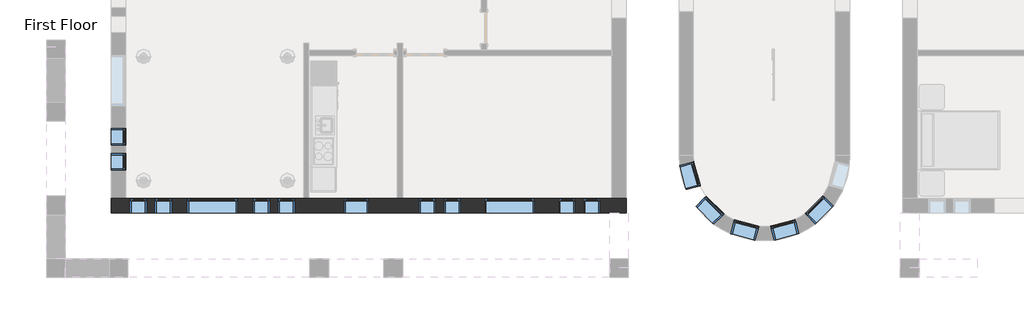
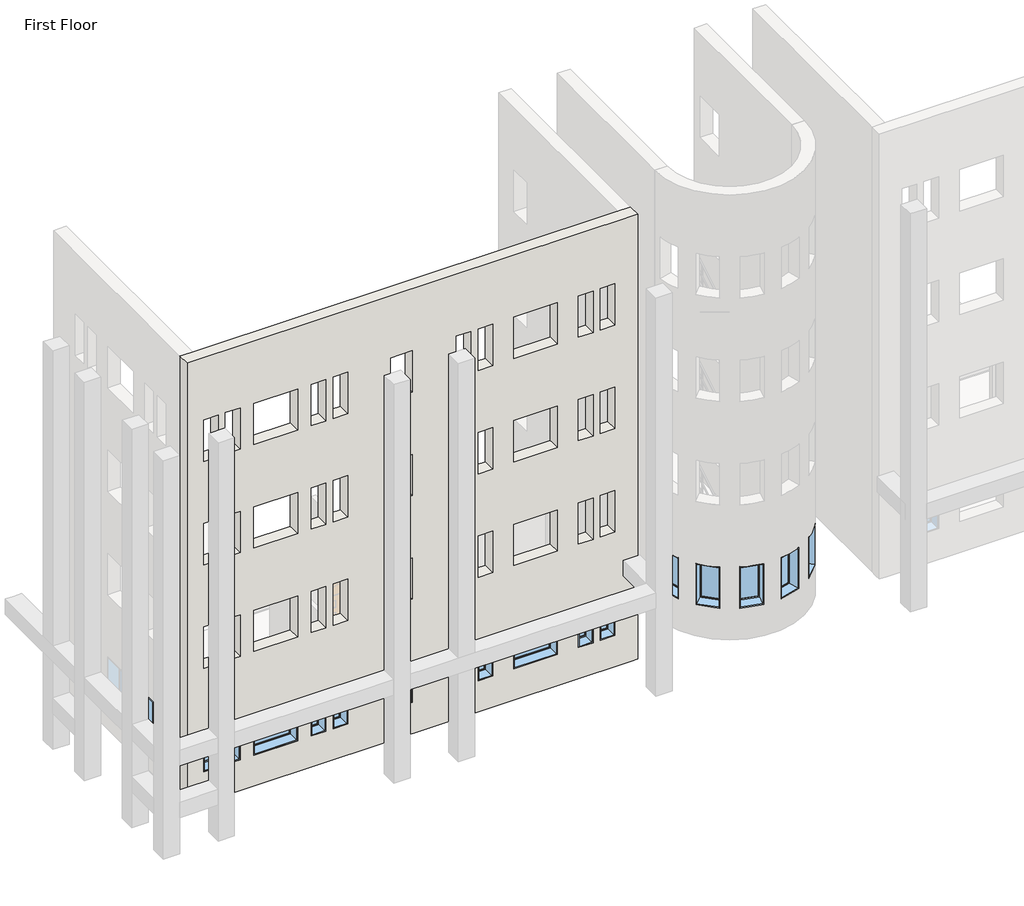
# One storey, part 1 of 24: 18 windows, 1 wall.
"""IFC4 building model written with IfcOpenShell, lengths in millimetres."""

from ifc_helpers import new_model, si_unit, origin, place, context, project, spatial, faceted_brep, transform, mapped, element, save
from components import window_da97879f, window_d61ef850, window_60baf983, window_ed80354a, window_6eb97611

model = new_model("IFC4")

# Units and contexts
model_context = context("Model", 3, world=origin())
ifc_project = project(units=[si_unit("LENGTHUNIT", "METRE", prefix="MILLI")], contexts=[model_context])

# Site, building, storey
site = spatial("IfcSite", under=ifc_project)
building = spatial("IfcBuilding", under=site)
storey = spatial("IfcBuildingStorey", under=building, Name="First Floor", Elevation=0.0)

# Wall
placement = place(None, origin())
element("IfcWall", 1, ObjectType="Exterior - Brick on Mtl. Stud", at=placement, inside=storey, context=model_context, shape_type="Brep", body=[
    faceted_brep([(-18300.6714563, -33878.3558133, 0.0), (-18487.9964563, -33878.3558133, 0.0), (-18653.0964563, -33878.3558133, 0.0), (-23747.3839563, -33878.3558133, 0.0), (-23874.3839563, -33878.3558133, 0.0), (-26033.3839563, -33878.3558133, 0.0), (-26160.3839563, -33878.3558133, 0.0), (-30492.6714563, -33878.3558133, 0.0), (-30657.7714563, -33878.3558133, 0.0), (-30845.0964563, -33878.3558133, 0.0), (-30845.0964563, -33878.3558133, 13106.4), (-30492.6714563, -33878.3558133, 13106.4), (-18653.0964563, -33878.3558133, 13106.4), (-18300.6714563, -33878.3558133, 13106.4), (-24572.8839563, -33878.3558133, 2133.6), (-25182.4839563, -33878.3558133, 2133.6), (-25182.4839563, -33878.3558133, 914.4), (-24572.8839563, -33878.3558133, 914.4), (-20534.2839563, -33878.3558133, 2133.6), (-21753.4839563, -33878.3558133, 2133.6), (-21753.4839563, -33878.3558133, 914.4), (-20534.2839563, -33878.3558133, 914.4), (-27773.2839563, -33878.3558133, 2133.6), (-28992.4839563, -33878.3558133, 2133.6), (-28992.4839563, -33878.3558133, 914.4), (-27773.2839563, -33878.3558133, 914.4), (-18934.0839563, -33878.3558133, 2133.6), (-19340.4839563, -33878.3558133, 2133.6), (-19340.4839563, -33878.3558133, 914.4), (-18934.0839563, -33878.3558133, 914.4), (-19543.6839563, -33878.3558133, 2133.6), (-19950.0839563, -33878.3558133, 2133.6), (-19950.0839563, -33878.3558133, 914.4), (-19543.6839563, -33878.3558133, 914.4), (-23353.6839563, -33878.3558133, 2133.6), (-23353.6839563, -33878.3558133, 914.4), (-22947.2839563, -33878.3558133, 914.4), (-22947.2839563, -33878.3558133, 2133.6), (-22744.0839563, -33878.3558133, 2133.6), (-22744.0839563, -33878.3558133, 914.4), (-22337.6839563, -33878.3558133, 914.4), (-22337.6839563, -33878.3558133, 2133.6), (-26376.2839563, -33878.3558133, 2133.6), (-26782.6839563, -33878.3558133, 2133.6), (-26782.6839563, -33878.3558133, 914.4), (-26376.2839563, -33878.3558133, 914.4), (-26985.8839563, -33878.3558133, 2133.6), (-27392.2839563, -33878.3558133, 2133.6), (-27392.2839563, -33878.3558133, 914.4), (-26985.8839563, -33878.3558133, 914.4), (-30389.4839563, -33878.3558133, 2133.6), (-30389.4839563, -33878.3558133, 914.4), (-29983.0839563, -33878.3558133, 914.4), (-29983.0839563, -33878.3558133, 2133.6), (-29779.8839563, -33878.3558133, 2133.6), (-29779.8839563, -33878.3558133, 914.4), (-29373.4839563, -33878.3558133, 914.4), (-29373.4839563, -33878.3558133, 2133.6), (-24572.8839563, -33878.3558133, 11277.6), (-25182.4839563, -33878.3558133, 11277.6), (-25182.4839563, -33878.3558133, 10058.4), (-24572.8839563, -33878.3558133, 10058.4), (-20534.2839563, -33878.3558133, 11277.6), (-21753.4839563, -33878.3558133, 11277.6), (-21753.4839563, -33878.3558133, 10058.4), (-20534.2839563, -33878.3558133, 10058.4), (-27773.2839563, -33878.3558133, 11277.6), (-28992.4839563, -33878.3558133, 11277.6), (-28992.4839563, -33878.3558133, 10058.4), (-27773.2839563, -33878.3558133, 10058.4), (-18934.0839563, -33878.3558133, 11277.6), (-19340.4839563, -33878.3558133, 11277.6), (-19340.4839563, -33878.3558133, 10058.4), (-18934.0839563, -33878.3558133, 10058.4), (-19543.6839563, -33878.3558133, 11277.6), (-19950.0839563, -33878.3558133, 11277.6), (-19950.0839563, -33878.3558133, 10058.4), (-19543.6839563, -33878.3558133, 10058.4), (-23353.6839563, -33878.3558133, 11277.6), (-23353.6839563, -33878.3558133, 10058.4), (-22947.2839563, -33878.3558133, 10058.4), (-22947.2839563, -33878.3558133, 11277.6), (-22744.0839563, -33878.3558133, 11277.6), (-22744.0839563, -33878.3558133, 10058.4), (-22337.6839563, -33878.3558133, 10058.4), (-22337.6839563, -33878.3558133, 11277.6), (-26376.2839563, -33878.3558133, 11277.6), (-26782.6839563, -33878.3558133, 11277.6), (-26782.6839563, -33878.3558133, 10058.4), (-26376.2839563, -33878.3558133, 10058.4), (-26985.8839563, -33878.3558133, 11277.6), (-27392.2839563, -33878.3558133, 11277.6), (-27392.2839563, -33878.3558133, 10058.4), (-26985.8839563, -33878.3558133, 10058.4), (-30389.4839563, -33878.3558133, 11277.6), (-30389.4839563, -33878.3558133, 10058.4), (-29983.0839563, -33878.3558133, 10058.4), (-29983.0839563, -33878.3558133, 11277.6), (-29779.8839563, -33878.3558133, 11277.6), (-29779.8839563, -33878.3558133, 10058.4), (-29373.4839563, -33878.3558133, 10058.4), (-29373.4839563, -33878.3558133, 11277.6), (-24572.8839563, -33878.3558133, 5181.6), (-25182.4839563, -33878.3558133, 5181.6), (-25182.4839563, -33878.3558133, 3962.4), (-24572.8839563, -33878.3558133, 3962.4), (-20534.2839563, -33878.3558133, 5181.6), (-21753.4839563, -33878.3558133, 5181.6), (-21753.4839563, -33878.3558133, 3962.4), (-20534.2839563, -33878.3558133, 3962.4), (-27773.2839563, -33878.3558133, 5181.6), (-28992.4839563, -33878.3558133, 5181.6), (-28992.4839563, -33878.3558133, 3962.4), (-27773.2839563, -33878.3558133, 3962.4), (-18934.0839563, -33878.3558133, 5181.6), (-19340.4839563, -33878.3558133, 5181.6), (-19340.4839563, -33878.3558133, 3962.4), (-18934.0839563, -33878.3558133, 3962.4), (-19543.6839563, -33878.3558133, 5181.6), (-19950.0839563, -33878.3558133, 5181.6), (-19950.0839563, -33878.3558133, 3962.4), (-19543.6839563, -33878.3558133, 3962.4), (-23353.6839563, -33878.3558133, 5181.6), (-23353.6839563, -33878.3558133, 3962.4), (-22947.2839563, -33878.3558133, 3962.4), (-22947.2839563, -33878.3558133, 5181.6), (-22744.0839563, -33878.3558133, 5181.6), (-22744.0839563, -33878.3558133, 3962.4), (-22337.6839563, -33878.3558133, 3962.4), (-22337.6839563, -33878.3558133, 5181.6), (-26376.2839563, -33878.3558133, 5181.6), (-26782.6839563, -33878.3558133, 5181.6), (-26782.6839563, -33878.3558133, 3962.4), (-26376.2839563, -33878.3558133, 3962.4), (-26985.8839563, -33878.3558133, 5181.6), (-27392.2839563, -33878.3558133, 5181.6), (-27392.2839563, -33878.3558133, 3962.4), (-26985.8839563, -33878.3558133, 3962.4), (-30389.4839563, -33878.3558133, 5181.6), (-30389.4839563, -33878.3558133, 3962.4), (-29983.0839563, -33878.3558133, 3962.4), (-29983.0839563, -33878.3558133, 5181.6), (-29779.8839563, -33878.3558133, 5181.6), (-29779.8839563, -33878.3558133, 3962.4), (-29373.4839563, -33878.3558133, 3962.4), (-29373.4839563, -33878.3558133, 5181.6), (-24572.8839563, -33878.3558133, 8229.6), (-25182.4839563, -33878.3558133, 8229.6), (-25182.4839563, -33878.3558133, 7010.4), (-24572.8839563, -33878.3558133, 7010.4), (-20534.2839563, -33878.3558133, 8229.6), (-21753.4839563, -33878.3558133, 8229.6), (-21753.4839563, -33878.3558133, 7010.4), (-20534.2839563, -33878.3558133, 7010.4), (-27773.2839563, -33878.3558133, 8229.6), (-28992.4839563, -33878.3558133, 8229.6), (-28992.4839563, -33878.3558133, 7010.4), (-27773.2839563, -33878.3558133, 7010.4), (-18934.0839563, -33878.3558133, 8229.6), (-19340.4839563, -33878.3558133, 8229.6), (-19340.4839563, -33878.3558133, 7010.4), (-18934.0839563, -33878.3558133, 7010.4), (-19543.6839563, -33878.3558133, 8229.6), (-19950.0839563, -33878.3558133, 8229.6), (-19950.0839563, -33878.3558133, 7010.4), (-19543.6839563, -33878.3558133, 7010.4), (-23353.6839563, -33878.3558133, 8229.6), (-23353.6839563, -33878.3558133, 7010.4), (-22947.2839563, -33878.3558133, 7010.4), (-22947.2839563, -33878.3558133, 8229.6), (-22744.0839563, -33878.3558133, 8229.6), (-22744.0839563, -33878.3558133, 7010.4), (-22337.6839563, -33878.3558133, 7010.4), (-22337.6839563, -33878.3558133, 8229.6), (-26376.2839563, -33878.3558133, 8229.6), (-26782.6839563, -33878.3558133, 8229.6), (-26782.6839563, -33878.3558133, 7010.4), (-26376.2839563, -33878.3558133, 7010.4), (-26985.8839563, -33878.3558133, 8229.6), (-27392.2839563, -33878.3558133, 8229.6), (-27392.2839563, -33878.3558133, 7010.4), (-26985.8839563, -33878.3558133, 7010.4), (-30389.4839563, -33878.3558133, 8229.6), (-30389.4839563, -33878.3558133, 7010.4), (-29983.0839563, -33878.3558133, 7010.4), (-29983.0839563, -33878.3558133, 8229.6), (-29779.8839563, -33878.3558133, 8229.6), (-29779.8839563, -33878.3558133, 7010.4), (-29373.4839563, -33878.3558133, 7010.4), (-29373.4839563, -33878.3558133, 8229.6), (-18300.6714563, -34230.7808133, 0.0), (-18300.6714563, -34230.7808133, 13106.4), (-30845.0964563, -34230.7808133, 13106.4), (-30845.0964563, -34230.7808133, 0.0), (-30657.7714563, -34230.7808133, 0.0), (-18487.9964563, -34230.7808133, 0.0), (-24572.8839563, -34230.7808133, 2133.6), (-24572.8839563, -34230.7808133, 914.4), (-25182.4839563, -34230.7808133, 914.4), (-25182.4839563, -34230.7808133, 2133.6), (-20534.2839563, -34230.7808133, 2133.6), (-20534.2839563, -34230.7808133, 914.4), (-21753.4839563, -34230.7808133, 914.4), (-21753.4839563, -34230.7808133, 2133.6), (-27773.2839563, -34230.7808133, 2133.6), (-27773.2839563, -34230.7808133, 914.4), (-28992.4839563, -34230.7808133, 914.4), (-28992.4839563, -34230.7808133, 2133.6), (-18934.0839563, -34230.7808133, 2133.6), (-18934.0839563, -34230.7808133, 914.4), (-19340.4839563, -34230.7808133, 914.4), (-19340.4839563, -34230.7808133, 2133.6), (-19543.6839563, -34230.7808133, 2133.6), (-19543.6839563, -34230.7808133, 914.4), (-19950.0839563, -34230.7808133, 914.4), (-19950.0839563, -34230.7808133, 2133.6), (-23353.6839563, -34230.7808133, 2133.6), (-22947.2839563, -34230.7808133, 2133.6), (-22947.2839563, -34230.7808133, 914.4), (-23353.6839563, -34230.7808133, 914.4), (-22744.0839563, -34230.7808133, 2133.6), (-22337.6839563, -34230.7808133, 2133.6), (-22337.6839563, -34230.7808133, 914.4), (-22744.0839563, -34230.7808133, 914.4), (-26376.2839563, -34230.7808133, 2133.6), (-26376.2839563, -34230.7808133, 914.4), (-26782.6839563, -34230.7808133, 914.4), (-26782.6839563, -34230.7808133, 2133.6), (-26985.8839563, -34230.7808133, 2133.6), (-26985.8839563, -34230.7808133, 914.4), (-27392.2839563, -34230.7808133, 914.4), (-27392.2839563, -34230.7808133, 2133.6), (-30389.4839563, -34230.7808133, 2133.6), (-29983.0839563, -34230.7808133, 2133.6), (-29983.0839563, -34230.7808133, 914.4), (-30389.4839563, -34230.7808133, 914.4), (-29779.8839563, -34230.7808133, 2133.6), (-29373.4839563, -34230.7808133, 2133.6), (-29373.4839563, -34230.7808133, 914.4), (-29779.8839563, -34230.7808133, 914.4), (-24572.8839563, -34230.7808133, 11277.6), (-24572.8839563, -34230.7808133, 10058.4), (-25182.4839563, -34230.7808133, 10058.4), (-25182.4839563, -34230.7808133, 11277.6), (-20534.2839563, -34230.7808133, 11277.6), (-20534.2839563, -34230.7808133, 10058.4), (-21753.4839563, -34230.7808133, 10058.4), (-21753.4839563, -34230.7808133, 11277.6), (-27773.2839563, -34230.7808133, 11277.6), (-27773.2839563, -34230.7808133, 10058.4), (-28992.4839563, -34230.7808133, 10058.4), (-28992.4839563, -34230.7808133, 11277.6), (-18934.0839563, -34230.7808133, 11277.6), (-18934.0839563, -34230.7808133, 10058.4), (-19340.4839563, -34230.7808133, 10058.4), (-19340.4839563, -34230.7808133, 11277.6), (-19543.6839563, -34230.7808133, 11277.6), (-19543.6839563, -34230.7808133, 10058.4), (-19950.0839563, -34230.7808133, 10058.4), (-19950.0839563, -34230.7808133, 11277.6), (-23353.6839563, -34230.7808133, 11277.6), (-22947.2839563, -34230.7808133, 11277.6), (-22947.2839563, -34230.7808133, 10058.4), (-23353.6839563, -34230.7808133, 10058.4), (-22744.0839563, -34230.7808133, 11277.6), (-22337.6839563, -34230.7808133, 11277.6), (-22337.6839563, -34230.7808133, 10058.4), (-22744.0839563, -34230.7808133, 10058.4), (-26376.2839563, -34230.7808133, 11277.6), (-26376.2839563, -34230.7808133, 10058.4), (-26782.6839563, -34230.7808133, 10058.4), (-26782.6839563, -34230.7808133, 11277.6), (-26985.8839563, -34230.7808133, 11277.6), (-26985.8839563, -34230.7808133, 10058.4), (-27392.2839563, -34230.7808133, 10058.4), (-27392.2839563, -34230.7808133, 11277.6), (-30389.4839563, -34230.7808133, 11277.6), (-29983.0839563, -34230.7808133, 11277.6), (-29983.0839563, -34230.7808133, 10058.4), (-30389.4839563, -34230.7808133, 10058.4), (-29779.8839563, -34230.7808133, 11277.6), (-29373.4839563, -34230.7808133, 11277.6), (-29373.4839563, -34230.7808133, 10058.4), (-29779.8839563, -34230.7808133, 10058.4), (-24572.8839563, -34230.7808133, 5181.6), (-24572.8839563, -34230.7808133, 3962.4), (-25182.4839563, -34230.7808133, 3962.4), (-25182.4839563, -34230.7808133, 5181.6), (-20534.2839563, -34230.7808133, 5181.6), (-20534.2839563, -34230.7808133, 3962.4), (-21753.4839563, -34230.7808133, 3962.4), (-21753.4839563, -34230.7808133, 5181.6), (-27773.2839563, -34230.7808133, 5181.6), (-27773.2839563, -34230.7808133, 3962.4), (-28992.4839563, -34230.7808133, 3962.4), (-28992.4839563, -34230.7808133, 5181.6), (-18934.0839563, -34230.7808133, 5181.6), (-18934.0839563, -34230.7808133, 3962.4), (-19340.4839563, -34230.7808133, 3962.4), (-19340.4839563, -34230.7808133, 5181.6), (-19543.6839563, -34230.7808133, 5181.6), (-19543.6839563, -34230.7808133, 3962.4), (-19950.0839563, -34230.7808133, 3962.4), (-19950.0839563, -34230.7808133, 5181.6), (-23353.6839563, -34230.7808133, 5181.6), (-22947.2839563, -34230.7808133, 5181.6), (-22947.2839563, -34230.7808133, 3962.4), (-23353.6839563, -34230.7808133, 3962.4), (-22744.0839563, -34230.7808133, 5181.6), (-22337.6839563, -34230.7808133, 5181.6), (-22337.6839563, -34230.7808133, 3962.4), (-22744.0839563, -34230.7808133, 3962.4), (-26376.2839563, -34230.7808133, 5181.6), (-26376.2839563, -34230.7808133, 3962.4), (-26782.6839563, -34230.7808133, 3962.4), (-26782.6839563, -34230.7808133, 5181.6), (-26985.8839563, -34230.7808133, 5181.6), (-26985.8839563, -34230.7808133, 3962.4), (-27392.2839563, -34230.7808133, 3962.4), (-27392.2839563, -34230.7808133, 5181.6), (-30389.4839563, -34230.7808133, 5181.6), (-29983.0839563, -34230.7808133, 5181.6), (-29983.0839563, -34230.7808133, 3962.4), (-30389.4839563, -34230.7808133, 3962.4), (-29779.8839563, -34230.7808133, 5181.6), (-29373.4839563, -34230.7808133, 5181.6), (-29373.4839563, -34230.7808133, 3962.4), (-29779.8839563, -34230.7808133, 3962.4), (-24572.8839563, -34230.7808133, 8229.6), (-24572.8839563, -34230.7808133, 7010.4), (-25182.4839563, -34230.7808133, 7010.4), (-25182.4839563, -34230.7808133, 8229.6), (-20534.2839563, -34230.7808133, 8229.6), (-20534.2839563, -34230.7808133, 7010.4), (-21753.4839563, -34230.7808133, 7010.4), (-21753.4839563, -34230.7808133, 8229.6), (-27773.2839563, -34230.7808133, 8229.6), (-27773.2839563, -34230.7808133, 7010.4), (-28992.4839563, -34230.7808133, 7010.4), (-28992.4839563, -34230.7808133, 8229.6), (-18934.0839563, -34230.7808133, 8229.6), (-18934.0839563, -34230.7808133, 7010.4), (-19340.4839563, -34230.7808133, 7010.4), (-19340.4839563, -34230.7808133, 8229.6), (-19543.6839563, -34230.7808133, 8229.6), (-19543.6839563, -34230.7808133, 7010.4), (-19950.0839563, -34230.7808133, 7010.4), (-19950.0839563, -34230.7808133, 8229.6), (-23353.6839563, -34230.7808133, 8229.6), (-22947.2839563, -34230.7808133, 8229.6), (-22947.2839563, -34230.7808133, 7010.4), (-23353.6839563, -34230.7808133, 7010.4), (-22744.0839563, -34230.7808133, 8229.6), (-22337.6839563, -34230.7808133, 8229.6), (-22337.6839563, -34230.7808133, 7010.4), (-22744.0839563, -34230.7808133, 7010.4), (-26376.2839563, -34230.7808133, 8229.6), (-26376.2839563, -34230.7808133, 7010.4), (-26782.6839563, -34230.7808133, 7010.4), (-26782.6839563, -34230.7808133, 8229.6), (-26985.8839563, -34230.7808133, 8229.6), (-26985.8839563, -34230.7808133, 7010.4), (-27392.2839563, -34230.7808133, 7010.4), (-27392.2839563, -34230.7808133, 8229.6), (-30389.4839563, -34230.7808133, 8229.6), (-29983.0839563, -34230.7808133, 8229.6), (-29983.0839563, -34230.7808133, 7010.4), (-30389.4839563, -34230.7808133, 7010.4), (-29779.8839563, -34230.7808133, 8229.6), (-29373.4839563, -34230.7808133, 8229.6), (-29373.4839563, -34230.7808133, 7010.4), (-29779.8839563, -34230.7808133, 7010.4), (-30845.0964563, -34043.4558133, 0.0), (-18300.6714563, -34043.4558133, 0.0), (-18487.9964563, -34043.4558133, 0.0), (-30657.7714563, -34043.4558133, 0.0)], [[[0, 1, 2, 3, 4, 5, 6, 7, 8, 9, 10, 11, 12, 13], [14, 15, 16, 17], [18, 19, 20, 21], [22, 23, 24, 25], [26, 27, 28, 29], [30, 31, 32, 33], [34, 35, 36, 37], [38, 39, 40, 41], [42, 43, 44, 45], [46, 47, 48, 49], [50, 51, 52, 53], [54, 55, 56, 57], [58, 59, 60, 61], [62, 63, 64, 65], [66, 67, 68, 69], [70, 71, 72, 73], [74, 75, 76, 77], [78, 79, 80, 81], [82, 83, 84, 85], [86, 87, 88, 89], [90, 91, 92, 93], [94, 95, 96, 97], [98, 99, 100, 101], [102, 103, 104, 105], [106, 107, 108, 109], [110, 111, 112, 113], [114, 115, 116, 117], [118, 119, 120, 121], [122, 123, 124, 125], [126, 127, 128, 129], [130, 131, 132, 133], [134, 135, 136, 137], [138, 139, 140, 141], [142, 143, 144, 145], [146, 147, 148, 149], [150, 151, 152, 153], [154, 155, 156, 157], [158, 159, 160, 161], [162, 163, 164, 165], [166, 167, 168, 169], [170, 171, 172, 173], [174, 175, 176, 177], [178, 179, 180, 181], [182, 183, 184, 185], [186, 187, 188, 189]], [[190, 191, 192, 193, 194, 195], [196, 197, 198, 199], [200, 201, 202, 203], [204, 205, 206, 207], [208, 209, 210, 211], [212, 213, 214, 215], [216, 217, 218, 219], [220, 221, 222, 223], [224, 225, 226, 227], [228, 229, 230, 231], [232, 233, 234, 235], [236, 237, 238, 239], [240, 241, 242, 243], [244, 245, 246, 247], [248, 249, 250, 251], [252, 253, 254, 255], [256, 257, 258, 259], [260, 261, 262, 263], [264, 265, 266, 267], [268, 269, 270, 271], [272, 273, 274, 275], [276, 277, 278, 279], [280, 281, 282, 283], [284, 285, 286, 287], [288, 289, 290, 291], [292, 293, 294, 295], [296, 297, 298, 299], [300, 301, 302, 303], [304, 305, 306, 307], [308, 309, 310, 311], [312, 313, 314, 315], [316, 317, 318, 319], [320, 321, 322, 323], [324, 325, 326, 327], [328, 329, 330, 331], [332, 333, 334, 335], [336, 337, 338, 339], [340, 341, 342, 343], [344, 345, 346, 347], [348, 349, 350, 351], [352, 353, 354, 355], [356, 357, 358, 359], [360, 361, 362, 363], [364, 365, 366, 367], [368, 369, 370, 371]], [[13, 12, 11, 10, 192, 191]], [[10, 9, 372, 193, 192]], [[0, 13, 191, 190, 373]], [[1, 0, 373, 374]], [[373, 190, 195, 374]], [[9, 8, 375, 372]], [[195, 194, 375, 374]], [[194, 193, 372, 375]], [[8, 7, 6, 5, 4, 3, 2, 1, 374, 375]], [[197, 196, 14, 17]], [[198, 197, 17, 16]], [[199, 198, 16, 15]], [[196, 199, 15, 14]], [[201, 200, 18, 21]], [[202, 201, 21, 20]], [[203, 202, 20, 19]], [[200, 203, 19, 18]], [[205, 204, 22, 25]], [[206, 205, 25, 24]], [[207, 206, 24, 23]], [[204, 207, 23, 22]], [[209, 208, 26, 29]], [[210, 209, 29, 28]], [[211, 210, 28, 27]], [[208, 211, 27, 26]], [[213, 212, 30, 33]], [[214, 213, 33, 32]], [[215, 214, 32, 31]], [[212, 215, 31, 30]], [[35, 34, 216, 219]], [[36, 35, 219, 218]], [[37, 36, 218, 217]], [[34, 37, 217, 216]], [[39, 38, 220, 223]], [[40, 39, 223, 222]], [[41, 40, 222, 221]], [[38, 41, 221, 220]], [[225, 224, 42, 45]], [[226, 225, 45, 44]], [[227, 226, 44, 43]], [[224, 227, 43, 42]], [[229, 228, 46, 49]], [[230, 229, 49, 48]], [[231, 230, 48, 47]], [[228, 231, 47, 46]], [[51, 50, 232, 235]], [[52, 51, 235, 234]], [[53, 52, 234, 233]], [[50, 53, 233, 232]], [[55, 54, 236, 239]], [[56, 55, 239, 238]], [[57, 56, 238, 237]], [[54, 57, 237, 236]], [[241, 240, 58, 61]], [[242, 241, 61, 60]], [[243, 242, 60, 59]], [[240, 243, 59, 58]], [[245, 244, 62, 65]], [[246, 245, 65, 64]], [[247, 246, 64, 63]], [[244, 247, 63, 62]], [[249, 248, 66, 69]], [[250, 249, 69, 68]], [[251, 250, 68, 67]], [[248, 251, 67, 66]], [[253, 252, 70, 73]], [[254, 253, 73, 72]], [[255, 254, 72, 71]], [[252, 255, 71, 70]], [[257, 256, 74, 77]], [[258, 257, 77, 76]], [[259, 258, 76, 75]], [[256, 259, 75, 74]], [[79, 78, 260, 263]], [[80, 79, 263, 262]], [[81, 80, 262, 261]], [[78, 81, 261, 260]], [[83, 82, 264, 267]], [[84, 83, 267, 266]], [[85, 84, 266, 265]], [[82, 85, 265, 264]], [[269, 268, 86, 89]], [[270, 269, 89, 88]], [[271, 270, 88, 87]], [[268, 271, 87, 86]], [[273, 272, 90, 93]], [[274, 273, 93, 92]], [[275, 274, 92, 91]], [[272, 275, 91, 90]], [[95, 94, 276, 279]], [[96, 95, 279, 278]], [[97, 96, 278, 277]], [[94, 97, 277, 276]], [[99, 98, 280, 283]], [[100, 99, 283, 282]], [[101, 100, 282, 281]], [[98, 101, 281, 280]], [[285, 284, 102, 105]], [[286, 285, 105, 104]], [[287, 286, 104, 103]], [[284, 287, 103, 102]], [[289, 288, 106, 109]], [[290, 289, 109, 108]], [[291, 290, 108, 107]], [[288, 291, 107, 106]], [[293, 292, 110, 113]], [[294, 293, 113, 112]], [[295, 294, 112, 111]], [[292, 295, 111, 110]], [[297, 296, 114, 117]], [[298, 297, 117, 116]], [[299, 298, 116, 115]], [[296, 299, 115, 114]], [[301, 300, 118, 121]], [[302, 301, 121, 120]], [[303, 302, 120, 119]], [[300, 303, 119, 118]], [[123, 122, 304, 307]], [[124, 123, 307, 306]], [[125, 124, 306, 305]], [[122, 125, 305, 304]], [[127, 126, 308, 311]], [[128, 127, 311, 310]], [[129, 128, 310, 309]], [[126, 129, 309, 308]], [[313, 312, 130, 133]], [[314, 313, 133, 132]], [[315, 314, 132, 131]], [[312, 315, 131, 130]], [[317, 316, 134, 137]], [[318, 317, 137, 136]], [[319, 318, 136, 135]], [[316, 319, 135, 134]], [[139, 138, 320, 323]], [[140, 139, 323, 322]], [[141, 140, 322, 321]], [[138, 141, 321, 320]], [[143, 142, 324, 327]], [[144, 143, 327, 326]], [[145, 144, 326, 325]], [[142, 145, 325, 324]], [[329, 328, 146, 149]], [[330, 329, 149, 148]], [[331, 330, 148, 147]], [[328, 331, 147, 146]], [[333, 332, 150, 153]], [[334, 333, 153, 152]], [[335, 334, 152, 151]], [[332, 335, 151, 150]], [[337, 336, 154, 157]], [[338, 337, 157, 156]], [[339, 338, 156, 155]], [[336, 339, 155, 154]], [[341, 340, 158, 161]], [[342, 341, 161, 160]], [[343, 342, 160, 159]], [[340, 343, 159, 158]], [[345, 344, 162, 165]], [[346, 345, 165, 164]], [[347, 346, 164, 163]], [[344, 347, 163, 162]], [[167, 166, 348, 351]], [[168, 167, 351, 350]], [[169, 168, 350, 349]], [[166, 169, 349, 348]], [[171, 170, 352, 355]], [[172, 171, 355, 354]], [[173, 172, 354, 353]], [[170, 173, 353, 352]], [[357, 356, 174, 177]], [[358, 357, 177, 176]], [[359, 358, 176, 175]], [[356, 359, 175, 174]], [[361, 360, 178, 181]], [[362, 361, 181, 180]], [[363, 362, 180, 179]], [[360, 363, 179, 178]], [[183, 182, 364, 367]], [[184, 183, 367, 366]], [[185, 184, 366, 365]], [[182, 185, 365, 364]], [[187, 186, 368, 371]], [[188, 187, 371, 370]], [[189, 188, 370, 369]], [[186, 189, 369, 368]]]),
])

# Windows
window_shape = window_da97879f(model_context)
element("IfcWindow", 2, ObjectType="Fixed : 16\" x 48\"", at=placement, inside=storey, context=model_context, shape_type="MappedRepresentation", body=[
    mapped(window_shape, transform((-19099.1839563, -34054.5683133, 0.0), x_axis=(1.0, 0.0, 0.0), y_axis=(0.0, 1.0, 0.0), z_axis=(0.0, 0.0, 1.0))),
])
element("IfcWindow", 3, ObjectType="Fixed : 16\" x 48\"", at=placement, inside=storey, context=model_context, shape_type="MappedRepresentation", body=[
    mapped(window_shape, transform((-19708.7839563, -34054.5683133, 0.0), x_axis=(1.0, 0.0, 0.0), y_axis=(0.0, 1.0, 0.0), z_axis=(0.0, 0.0, 1.0))),
])
element("IfcWindow", 4, ObjectType="Fixed : 16\" x 48\"", at=placement, inside=storey, context=model_context, shape_type="MappedRepresentation", body=[
    mapped(window_shape, transform((-26541.3839563, -34054.5683133, 0.0), x_axis=(1.0, 0.0, 0.0), y_axis=(0.0, 1.0, 0.0), z_axis=(0.0, 0.0, 1.0))),
])
element("IfcWindow", 5, ObjectType="Fixed : 16\" x 48\"", at=placement, inside=storey, context=model_context, shape_type="MappedRepresentation", body=[
    mapped(window_shape, transform((-27150.9839563, -34054.5683133, 0.0), x_axis=(1.0, 0.0, 0.0), y_axis=(0.0, 1.0, 0.0), z_axis=(0.0, 0.0, 1.0))),
])
element("IfcWindow", 6, ObjectType="Fixed : 16\" x 48\"", at=placement, inside=storey, context=model_context, shape_type="MappedRepresentation", body=[
    mapped(window_shape, transform((-30668.8839563, -33025.8683133, 0.0), x_axis=(0.0, -1.0, 0.0), y_axis=(1.0, 0.0, 0.0), z_axis=(0.0, 0.0, 1.0))),
])
element("IfcWindow", 7, ObjectType="Fixed : 16\" x 48\"", at=placement, inside=storey, context=model_context, shape_type="MappedRepresentation", body=[
    mapped(window_shape, transform((-30668.8839563, -32416.2683133, 0.0), x_axis=(0.0, -1.0, 0.0), y_axis=(1.0, 0.0, 0.0), z_axis=(0.0, 0.0, 1.0))),
])
window_2_shape = window_d61ef850(model_context)
element("IfcWindow", 8, ObjectType="Fixed : 16\" x 48\"", at=placement, inside=storey, context=model_context, shape_type="MappedRepresentation", body=[
    mapped(window_2_shape, transform((-23188.5839563, -34054.5683133, 0.0), x_axis=(-1.0, 0.0, 0.0), y_axis=(0.0, -1.0, 0.0), z_axis=(0.0, 0.0, 1.0))),
])
element("IfcWindow", 9, ObjectType="Fixed : 16\" x 48\"", at=placement, inside=storey, context=model_context, shape_type="MappedRepresentation", body=[
    mapped(window_2_shape, transform((-22578.9839563, -34054.5683133, 0.0), x_axis=(-1.0, 0.0, 0.0), y_axis=(0.0, -1.0, 0.0), z_axis=(0.0, 0.0, 1.0))),
])
element("IfcWindow", 10, ObjectType="Fixed : 16\" x 48\"", at=placement, inside=storey, context=model_context, shape_type="MappedRepresentation", body=[
    mapped(window_2_shape, transform((-30224.3839563, -34054.5683133, 0.0), x_axis=(-1.0, 0.0, 0.0), y_axis=(0.0, -1.0, 0.0), z_axis=(0.0, 0.0, 1.0))),
])
element("IfcWindow", 11, ObjectType="Fixed : 16\" x 48\"", at=placement, inside=storey, context=model_context, shape_type="MappedRepresentation", body=[
    mapped(window_2_shape, transform((-29614.7839563, -34054.5683133, 0.0), x_axis=(-1.0, 0.0, 0.0), y_axis=(0.0, -1.0, 0.0), z_axis=(0.0, 0.0, 1.0))),
])
window_3_shape = window_60baf983(model_context)
element("IfcWindow", 12, ObjectType="Fixed : 24\" x 48\"", at=placement, inside=storey, context=model_context, shape_type="MappedRepresentation", body=[
    mapped(window_3_shape, transform((-24839.5839563, -34054.5683133, 0.0), x_axis=(1.0, 0.0, 0.0), y_axis=(0.0, 1.0, 0.0), z_axis=(0.0, 0.0, 1.0))),
])
window_4_shape = window_ed80354a(model_context)
element("IfcWindow", 13, ObjectType="Fixed : 24\" x 48\"", at=placement, inside=storey, context=model_context, shape_type="MappedRepresentation", body=[
    mapped(window_4_shape, transform((-16757.5848795, -33290.1635131, 0.0), x_axis=(-0.261761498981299, 0.9651325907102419, 0.0), y_axis=(-0.9651325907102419, -0.261761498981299, 0.0), z_axis=(0.0, 0.0, 1.0))),
])
element("IfcWindow", 14, ObjectType="Fixed : 24\" x 48\"", at=placement, inside=storey, context=model_context, shape_type="MappedRepresentation", body=[
    mapped(window_4_shape, transform((-16286.0301771, -34140.4392215, 0.0), x_axis=(-0.7092584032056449, 0.7049485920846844, 0.0), y_axis=(-0.7049485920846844, -0.7092584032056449, 0.0), z_axis=(0.0, 0.0, 1.0))),
])
element("IfcWindow", 15, ObjectType="Fixed : 24\" x 48\"", at=placement, inside=storey, context=model_context, shape_type="MappedRepresentation", body=[
    mapped(window_4_shape, transform((-15452.5139714, -34641.0222339, 0.0), x_axis=(-0.9667100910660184, 0.25587418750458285, 0.0), y_axis=(-0.25587418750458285, -0.9667100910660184, 0.0), z_axis=(0.0, 0.0, 1.0))),
])
element("IfcWindow", 16, ObjectType="Fixed : 24\" x 48\"", at=placement, inside=storey, context=model_context, shape_type="MappedRepresentation", body=[
    mapped(window_4_shape, transform((-14480.3762565, -34657.7817365, 0.0), x_axis=(-0.9651325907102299, -0.26176149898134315, 0.0), y_axis=(0.26176149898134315, -0.9651325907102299, 0.0), z_axis=(0.0, 0.0, 1.0))),
])
element("IfcWindow", 17, ObjectType="Fixed : 24\" x 48\"", at=placement, inside=storey, context=model_context, shape_type="MappedRepresentation", body=[
    mapped(window_4_shape, transform((-13630.1005482, -34186.2270341, 0.0), x_axis=(-0.7049485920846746, -0.7092584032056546, 0.0), y_axis=(0.7092584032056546, -0.7049485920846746, 0.0), z_axis=(0.0, 0.0, 1.0))),
])
window_5_shape = window_6eb97611(model_context)
element("IfcWindow", 18, ObjectType="Fixed : 48\" x 48\"", at=placement, inside=storey, context=model_context, shape_type="MappedRepresentation", body=[
    mapped(window_5_shape, transform((-21105.7839563, -34054.5683133, 0.0), x_axis=(1.0, 0.0, 0.0), y_axis=(0.0, 1.0, 0.0), z_axis=(0.0, 0.0, 1.0))),
])
element("IfcWindow", 19, ObjectType="Fixed : 48\" x 48\"", at=placement, inside=storey, context=model_context, shape_type="MappedRepresentation", body=[
    mapped(window_5_shape, transform((-28344.7839563, -34054.5683133, 0.0), x_axis=(1.0, 0.0, 0.0), y_axis=(0.0, 1.0, 0.0), z_axis=(0.0, 0.0, 1.0))),
])

save(model, "model.ifc")
